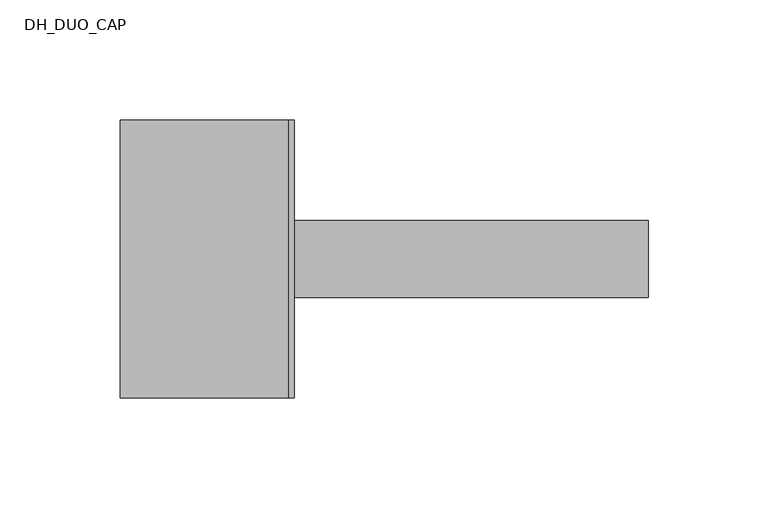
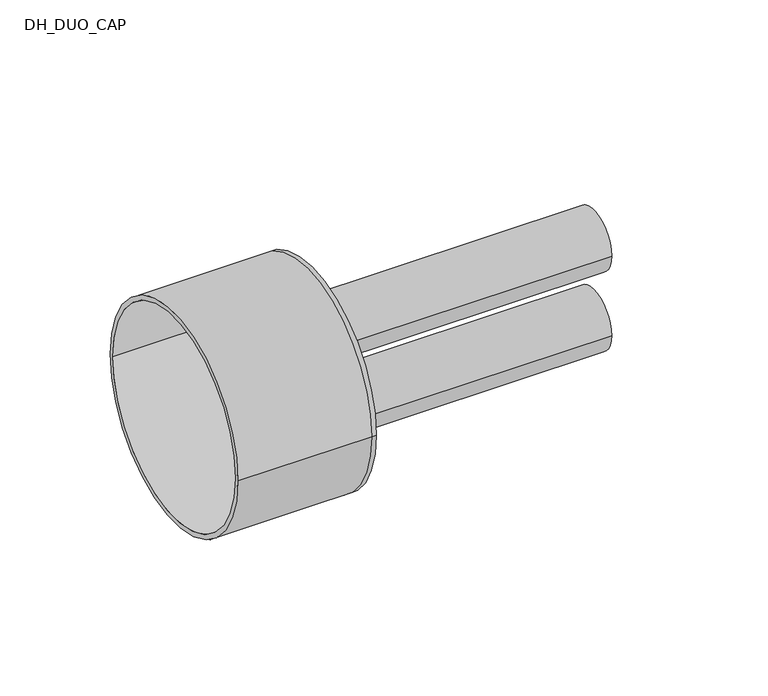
"""IFC4 building model written with IfcOpenShell, lengths in millimetres: pipe fitting geometry, DH_DUO_CAP : RAUTHERMEX DUO 11 Heating - Solid Cap."""

from ifc_helpers import new_model, si_unit, point, frame, frame_2d, origin, place, context, project, spatial, polyline, circle_curve, trimmed, segment, composite_curve, outline, extrude, source, transform, mapped, element, save
from ifc_brep_helpers import plane_surface, cylinder_surface, revolved_surface, advanced_brep


def dh_duo_cap_5dd0b46b(model_context):
    return source(origin(), model_context, "Body", "SolidModel", [
        extrude(outline(composite_curve([segment(trimmed(circle_curve(frame_2d((0.0, -22.0)), 16.0), [point((-16.0, -22.0))], [point((16.0, -22.0))], False, "CARTESIAN"), True, "CONTINUOUS"), segment(trimmed(circle_curve(frame_2d((0.0, -22.0)), 16.0), [point((16.0, -22.0))], [point((-16.0, -22.0))], False, "CARTESIAN"), True, "CONTINUOUS")], self_intersect=False), holes=[composite_curve([segment(trimmed(circle_curve(frame_2d((0.0, -22.0)), 13.1), [point((-13.1, -22.0))], [point((13.1, -22.0))], True, "CARTESIAN"), True, "CONTINUOUS"), segment(trimmed(circle_curve(frame_2d((0.0, -22.0)), 13.1), [point((13.1, -22.0))], [point((-13.1, -22.0))], True, "CARTESIAN"), True, "CONTINUOUS")], self_intersect=False)]), frame((0.0, 0.0, 0.0), z_axis=(1.0, 0.0, 0.0), x_axis=(0.0, 1.0, 0.0)), (0.0, 0.0, 1.0), 150.0),
        extrude(outline(composite_curve([segment(trimmed(circle_curve(frame_2d((0.0, 22.0)), 16.0), [point((-16.0, 22.0))], [point((16.0, 22.0))], False, "CARTESIAN"), True, "CONTINUOUS"), segment(trimmed(circle_curve(frame_2d((0.0, 22.0)), 16.0), [point((16.0, 22.0))], [point((-16.0, 22.0))], False, "CARTESIAN"), True, "CONTINUOUS")], self_intersect=False), holes=[composite_curve([segment(trimmed(circle_curve(frame_2d((0.0, 22.0)), 13.1), [point((-13.1, 22.0))], [point((13.1, 22.0))], True, "CARTESIAN"), True, "CONTINUOUS"), segment(trimmed(circle_curve(frame_2d((0.0, 22.0)), 13.1), [point((13.1, 22.0))], [point((-13.1, 22.0))], True, "CARTESIAN"), True, "CONTINUOUS")], self_intersect=False)]), frame((0.0, 0.0, 0.0), z_axis=(1.0, 0.0, 0.0), x_axis=(0.0, 1.0, 0.0)), (0.0, 0.0, 1.0), 150.0),
        advanced_brep(
        [(-70.0, -58.0, 0.0), (-70.0, 58.0, 0.0), (-70.0, -55.5, 0.0), (-70.0, 55.5, 0.0), (0.0, -55.5, 0.0), (0.0, 55.5, 0.0), (0.0, -58.0, 0.0), (0.0, 58.0, 0.0), (0.0, 16.0, 22.0), (0.0, -16.0, 22.0), (0.0, 16.0, -22.0), (0.0, -16.0, -22.0), (2.5, -58.0, 0.0), (2.5, 58.0, 0.0), (2.5, -16.0, 22.0), (2.5, 16.0, 22.0), (2.5, -16.0, -22.0), (2.5, 16.0, -22.0)],
        [
            (0, 1, circle_curve(frame((-70.0, 0.0, 0.0), z_axis=(-1.0, 0.0, 0.0), x_axis=(0.0, 1.0, 0.0)), 58.0)),
            (1, 0, circle_curve(frame((-70.0, 0.0, 0.0), z_axis=(-1.0, 0.0, 0.0), x_axis=(0.0, 1.0, 0.0)), 58.0)),
            (2, 3, circle_curve(frame((-70.0, 0.0, 0.0), z_axis=(1.0, 0.0, 0.0), x_axis=(0.0, 1.0, 0.0)), 55.5)),
            (3, 2, circle_curve(frame((-70.0, 0.0, 0.0), z_axis=(1.0, 0.0, 0.0), x_axis=(0.0, 1.0, 0.0)), 55.5)),
            (2, 4),
            (4, 5, circle_curve(frame((0.0, 0.0, 0.0), z_axis=(1.0, 0.0, 0.0), x_axis=(0.0, 1.0, 0.0)), 55.5)),
            (5, 3),
            (5, 4, circle_curve(frame((0.0, 0.0, 0.0), z_axis=(1.0, 0.0, 0.0), x_axis=(0.0, 1.0, 0.0)), 55.5)),
            (0, 6),
            (6, 7, circle_curve(frame((0.0, 0.0, 0.0), z_axis=(-1.0, 0.0, 0.0), x_axis=(0.0, 1.0, 0.0)), 58.0)),
            (7, 1),
            (7, 6, circle_curve(frame((0.0, 0.0, 0.0), z_axis=(-1.0, 0.0, 0.0), x_axis=(0.0, 1.0, 0.0)), 58.0)),
            (8, 9, circle_curve(frame((0.0, 0.0, 22.0), z_axis=(1.0, 0.0, 0.0), x_axis=(0.0, 1.0, 0.0)), 16.0)),
            (9, 8, circle_curve(frame((0.0, 0.0, 22.0), z_axis=(1.0, 0.0, 0.0), x_axis=(0.0, 1.0, 0.0)), 16.0)),
            (10, 11, circle_curve(frame((0.0, 0.0, -22.0), z_axis=(1.0, 0.0, 0.0), x_axis=(0.0, 1.0, 0.0)), 16.0)),
            (11, 10, circle_curve(frame((0.0, 0.0, -22.0), z_axis=(1.0, 0.0, 0.0), x_axis=(0.0, 1.0, 0.0)), 16.0)),
            (12, 13, circle_curve(frame((2.5, 0.0, 0.0), z_axis=(1.0, 0.0, 0.0), x_axis=(0.0, 1.0, 0.0)), 58.0)),
            (13, 12, circle_curve(frame((2.5, 0.0, 0.0), z_axis=(1.0, 0.0, 0.0), x_axis=(0.0, 1.0, 0.0)), 58.0)),
            (14, 15, circle_curve(frame((2.5, 0.0, 22.0), z_axis=(-1.0, 0.0, 0.0), x_axis=(0.0, 1.0, 0.0)), 16.0)),
            (15, 14, circle_curve(frame((2.5, 0.0, 22.0), z_axis=(-1.0, 0.0, 0.0), x_axis=(0.0, 1.0, 0.0)), 16.0)),
            (16, 17, circle_curve(frame((2.5, 0.0, -22.0), z_axis=(-1.0, 0.0, 0.0), x_axis=(0.0, 1.0, 0.0)), 16.0)),
            (17, 16, circle_curve(frame((2.5, 0.0, -22.0), z_axis=(-1.0, 0.0, 0.0), x_axis=(0.0, 1.0, 0.0)), 16.0)),
            (13, 7),
            (6, 12),
            (8, 15),
            (14, 9),
            (10, 17),
            (16, 11),
        ],
        [
            plane_surface(frame((-70.0, 0.0, 0.0), z_axis=(-1.0, 0.0, 0.0), x_axis=(0.0, 0.0, 1.0))),
            revolved_surface(polyline([(0.0, 55.5, 0.0), (-70.0, 55.5, 0.0)]), (-70.0, 0.0, 0.0), (1.0, 0.0, 0.0)),
            cylinder_surface(frame((-70.0, 0.0, 0.0), z_axis=(-1.0, 0.0, 0.0), x_axis=(0.0, 1.0, 0.0)), 58.0),
            plane_surface(frame((0.0, 0.0, 0.0), z_axis=(-1.0, 0.0, 0.0), x_axis=(0.0, 0.0, 1.0))),
            plane_surface(frame((2.5, 0.0, 0.0), z_axis=(1.0, 0.0, 0.0), x_axis=(0.0, 0.0, 1.0))),
            cylinder_surface(frame((0.0, 0.0, 0.0), z_axis=(-1.0, 0.0, 0.0), x_axis=(0.0, 1.0, 0.0)), 58.0),
            revolved_surface(polyline([(0.0, 16.0, 22.0), (2.5, 16.0, 22.0)]), (0.0, 0.0, 22.0), (-1.0, 0.0, 0.0)),
            revolved_surface(polyline([(0.0, 16.0, -22.0), (2.5, 16.0, -22.0)]), (0.0, 0.0, -22.0), (-1.0, 0.0, 0.0)),
        ],
        [
            (0, [[1, 2], [3, 4]]),
            (1, [[-3, 5, 6, 7]]),
            (1, [[-4, -7, 8, -5]]),
            (2, [[-1, 9, 10, 11]]),
            (2, [[-2, -11, 12, -9]]),
            (3, [[-6, -8], [13, 14], [15, 16]]),
            (4, [[17, 18], [19, 20], [21, 22]]),
            (5, [[-18, 23, -10, 24]]),
            (5, [[-17, -24, -12, -23]]),
            (6, [[25, -19, 26, -13]]),
            (6, [[-25, -14, -26, -20]]),
            (7, [[27, -21, 28, -15]]),
            (7, [[-27, -16, -28, -22]]),
        ],
    ),
    ])


if __name__ == "__main__":
    model = new_model("IFC4")
    model_context = context("Model", 3, world=origin())
    ifc_project = project(units=[si_unit("LENGTHUNIT", "METRE", prefix="MILLI")], contexts=[model_context])
    site = spatial("IfcSite", under=ifc_project)
    building = spatial("IfcBuilding", under=site)
    placement = place(None, origin())
    dh_duo_cap_shape = dh_duo_cap_5dd0b46b(model_context)
    element("IfcPipeFitting", 1, ObjectType="DH_DUO_CAP : RAUTHERMEX DUO 11 Heating - Solid Cap", at=placement, inside=building, context=model_context, shape_type="MappedRepresentation", body=[
        mapped(dh_duo_cap_shape, transform((0.0, 0.0, 0.0), x_axis=(1.0, 0.0, 0.0), y_axis=(0.0, 1.0, 0.0), z_axis=(0.0, 0.0, 1.0))),
    ])
    save(model, "model.ifc")
